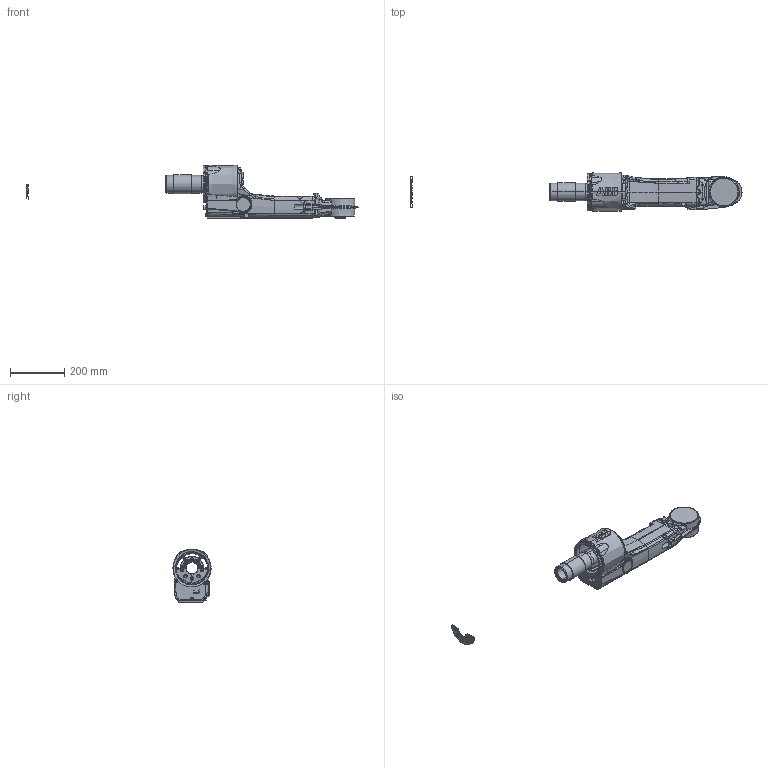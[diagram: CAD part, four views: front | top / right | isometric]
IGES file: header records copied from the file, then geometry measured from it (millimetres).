
Start section: SolidWorks IGES file using analytic representation for surfaces
Global section: file name: C:\2\Original\IRB1520ID_4_150__02_link4_iges_j.IGS; native system: SolidWorks 2010; preprocessor: SolidWorks 2010; author: CNWESUN5; date: 130409.130318; units: millimetre
Bounding box: 1227.51 x 140.92 x 199.38 mm (x, y, z)
Surface area: 595075.7 mm2 (no closed solid volume)
Topology: 0 solids, 0 shells, 1190 faces, 17184 edges, 17183 vertices
Faces by surface type: bspline 817, revolution 373
